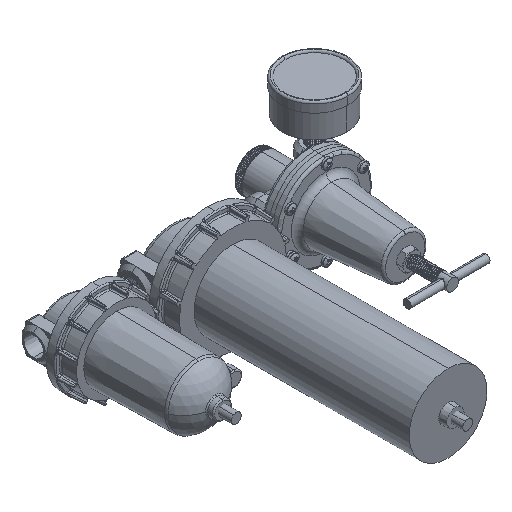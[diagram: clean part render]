
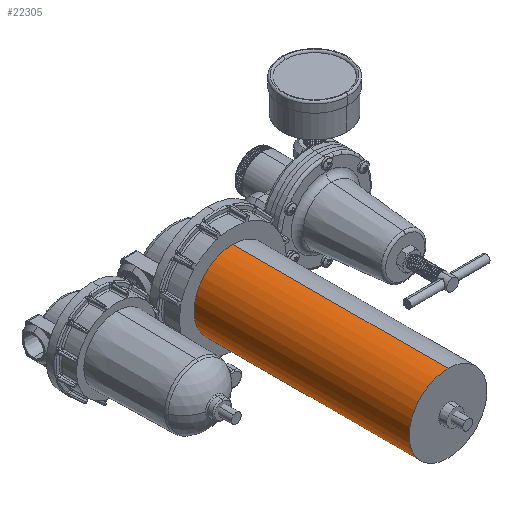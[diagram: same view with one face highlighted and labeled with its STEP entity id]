
A CAD part, isometric view. The second image highlights one B-rep face of the part: STEP entity #22305.
In plain terms, the highlighted cylindrical face has radius 31.5 mm (diameter 63 mm), a partial arc.
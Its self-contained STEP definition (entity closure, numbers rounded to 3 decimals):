
#257 = EDGE_CURVE ( 'NONE', #1434, #28680, #46705, .T. ) ;
#770 = CARTESIAN_POINT ( 'NONE',  ( 0., 174.5, 0. ) ) ;
#1434 = VERTEX_POINT ( 'NONE', #25710 ) ;
#2378 = DIRECTION ( 'NONE',  ( 0., 1., 0. ) ) ;
#4267 = DIRECTION ( 'NONE',  ( 0., 0., 1. ) ) ;
#6608 = CARTESIAN_POINT ( 'NONE',  ( 0., 0., 31.5 ) ) ;
#9526 = DIRECTION ( 'NONE',  ( 0., 0., -1. ) ) ;
#12169 = CIRCLE ( 'NONE', #31014, 31.5 ) ;
#13741 = VERTEX_POINT ( 'NONE', #38138 ) ;
#13833 = CARTESIAN_POINT ( 'NONE',  ( 0., 174.5, -31.5 ) ) ;
#14341 = AXIS2_PLACEMENT_3D ( 'NONE', #43836, #38904, #4267 ) ;
#16179 = EDGE_CURVE ( 'NONE', #30079, #1434, #23838, .T. ) ;
#16589 = CARTESIAN_POINT ( 'NONE',  ( 0., 174.5, 31.5 ) ) ;
#16832 = VECTOR ( 'NONE', #38680, 1000. ) ;
#17397 = CYLINDRICAL_SURFACE ( 'NONE', #34415, 31.5 ) ;
#20488 = VECTOR ( 'NONE', #28375, 1000. ) ;
#22305 = ADVANCED_FACE ( 'NONE', ( #29650 ), #17397, .T. ) ;
#23838 = LINE ( 'NONE', #46474, #20488 ) ;
#25035 = LINE ( 'NONE', #16589, #16832 ) ;
#25710 = CARTESIAN_POINT ( 'NONE',  ( 0., 0., -31.5 ) ) ;
#28375 = DIRECTION ( 'NONE',  ( 0., -1., 0. ) ) ;
#28680 = VERTEX_POINT ( 'NONE', #6608 ) ;
#29650 = FACE_OUTER_BOUND ( 'NONE', #46357, .T. ) ;
#30079 = VERTEX_POINT ( 'NONE', #13833 ) ;
#31014 = AXIS2_PLACEMENT_3D ( 'NONE', #50521, #2378, #41759 ) ;
#34415 = AXIS2_PLACEMENT_3D ( 'NONE', #770, #34996, #9526 ) ;
#34809 = ORIENTED_EDGE ( 'NONE', *, *, #257, .T. ) ;
#34996 = DIRECTION ( 'NONE',  ( 0., -1., 0. ) ) ;
#38138 = CARTESIAN_POINT ( 'NONE',  ( 0., 174.5, 31.5 ) ) ;
#38680 = DIRECTION ( 'NONE',  ( 0., -1., 0. ) ) ;
#38904 = DIRECTION ( 'NONE',  ( 0., 1., 0. ) ) ;
#39760 = ORIENTED_EDGE ( 'NONE', *, *, #54493, .F. ) ;
#41759 = DIRECTION ( 'NONE',  ( 0., 0., 1. ) ) ;
#42620 = EDGE_CURVE ( 'NONE', #13741, #28680, #25035, .T. ) ;
#43836 = CARTESIAN_POINT ( 'NONE',  ( 0., 0., 0. ) ) ;
#46357 = EDGE_LOOP ( 'NONE', ( #53268, #39760, #46791, #34809 ) ) ;
#46474 = CARTESIAN_POINT ( 'NONE',  ( 0., 174.5, -31.5 ) ) ;
#46705 = CIRCLE ( 'NONE', #14341, 31.5 ) ;
#46791 = ORIENTED_EDGE ( 'NONE', *, *, #16179, .T. ) ;
#50521 = CARTESIAN_POINT ( 'NONE',  ( 0., 174.5, 0. ) ) ;
#53268 = ORIENTED_EDGE ( 'NONE', *, *, #42620, .F. ) ;
#54493 = EDGE_CURVE ( 'NONE', #30079, #13741, #12169, .T. ) ;
